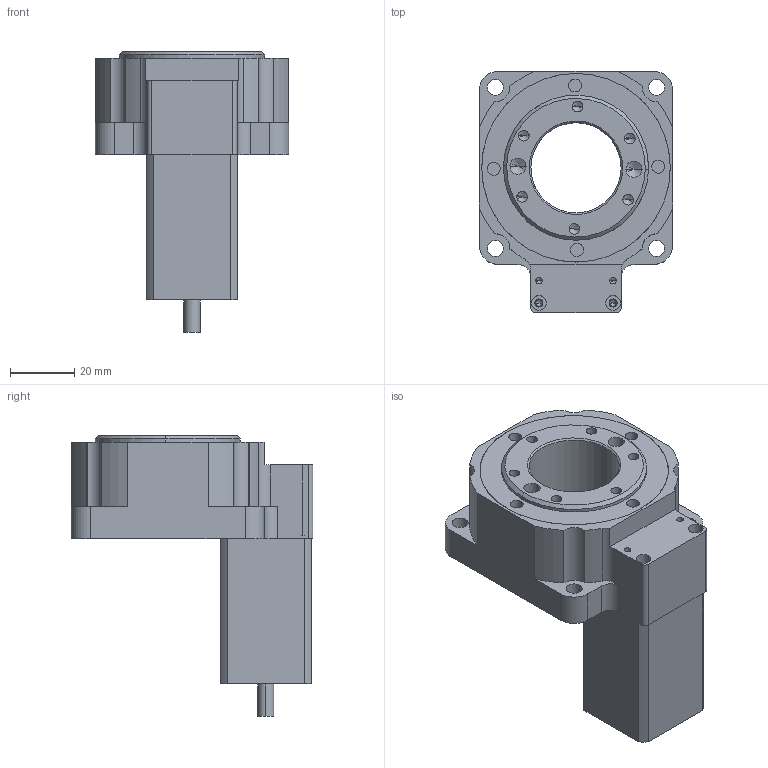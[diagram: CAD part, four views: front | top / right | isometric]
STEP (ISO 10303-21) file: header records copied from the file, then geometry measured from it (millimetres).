
FILE_DESCRIPTION (( 'STEP AP203' ), '1' );
FILE_NAME ('DG60.STEP', '2021-09-09T15:22:36', ( 'SkyUser' ), ( 'ITianKong.Com' ), 'SwSTEP 2.0', 'SolidWorks 2013', '' );
FILE_SCHEMA (( 'CONFIG_CONTROL_DESIGN' ));
Length unit declared in the file: millimetre
Products named in the file (7): DG60; D60-本體; 6807zz; D60-齒圈; 6809ZZ; D60-調整圈; 步進馬達
Assembly tree (6 placements, depth 2):
  DG60
    D60-本體
    6807zz
    D60-齒圈
    6809ZZ
    D60-調整圈
    步進馬達
Bounding box: 60 x 75 x 87 mm (x, y, z)
Volume: 121941.6 mm3; surface area: 49886.6 mm2
Topology: 6 solids, 6 shells, 241 faces, 586 edges, 360 vertices
Faces by surface type: cylinder 138, plane 53, cone 34, torus 16
Entity records: 7769 total; most frequent: DIRECTION 1386, CARTESIAN_POINT 1168, ORIENTED_EDGE 1116, AXIS2_PLACEMENT_3D 578, EDGE_CURVE 558, VERTEX_POINT 360, CIRCLE 328, EDGE_LOOP 300
